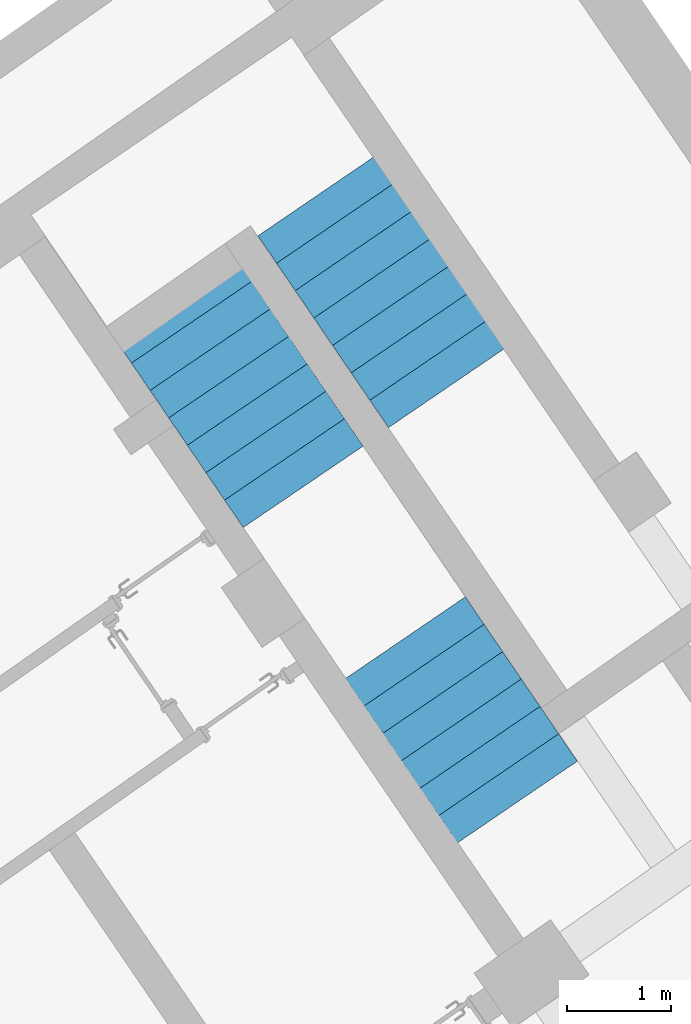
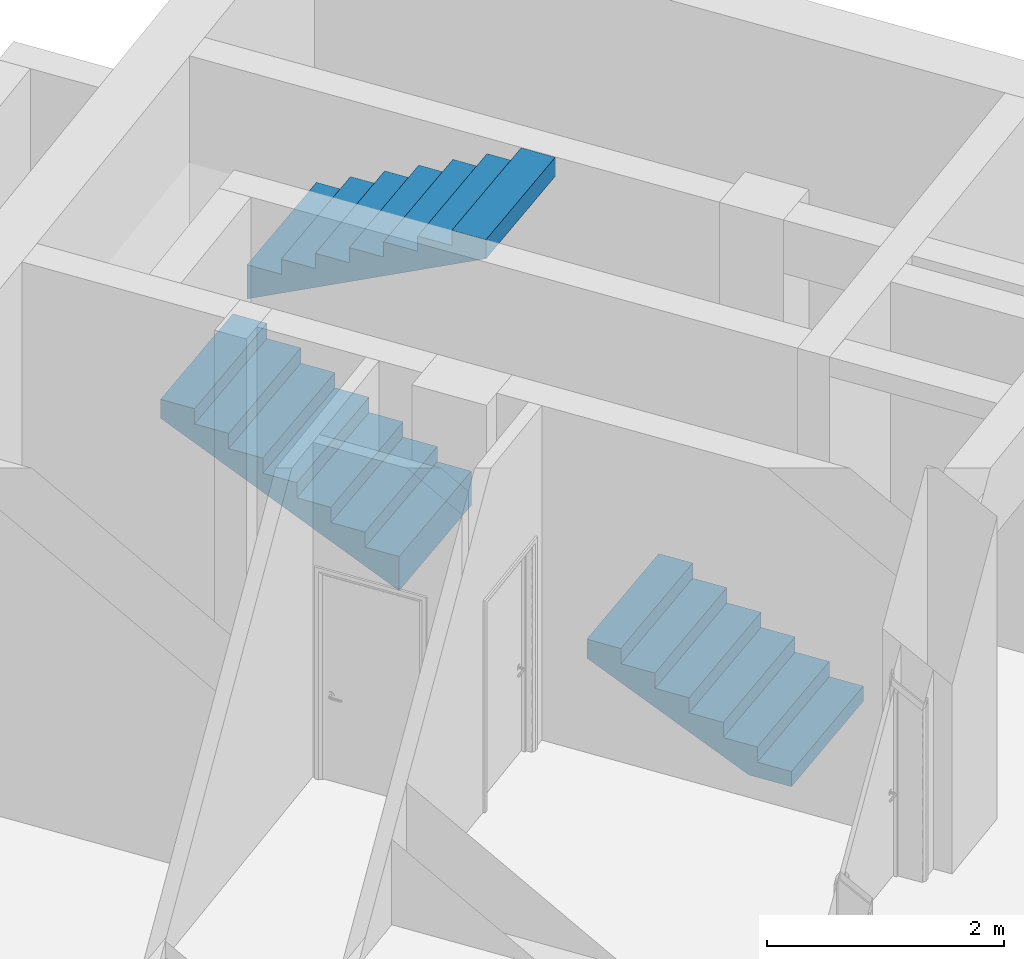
# One storey, part 110 of 112: 3 stair flights, 1 element without a shape of its own.
"""IFC2X3 building model written with IfcOpenShell, lengths in millimetres."""

import ifcopenshell
import ifcopenshell.guid

model = None  # the IFC model being written
_history = None  # IfcOwnerHistory: only IFC2X3 demands one
_inside = {}  # id of a spatial element -> (the spatial element, [elements in it])
_under = {}  # id of a project, library or spatial element -> (it, [spatial elements below it])
_declared = {}  # id of a project -> (the project, [libraries it declares])
_typed = {}  # id of a type object -> (the type object, [elements of that type])
_made_of = {}  # id of a material, layer set ... -> (it, [elements and type objects made of it])


def new_model(schema):
    """Start an empty IFC model of exactly this schema.

    Asked for "IFC4X3", IfcOpenShell would pick the latest addendum, in which some entities
    have other attributes; the version numbers below select the first issue.
    IFC2X3 requires an IfcOwnerHistory on every rooted entity: one is made here for all.
    """
    global model, _history
    if schema == "IFC4X3":
        model = ifcopenshell.file(schema_version=(4, 3, 0, 0))
    else:
        model = ifcopenshell.file(schema=schema)
    _inside.clear()
    _under.clear()
    _declared.clear()
    _typed.clear()
    _made_of.clear()
    _history = None
    if model.schema == "IFC2X3":
        org = make("IfcOrganization", Name="unknown")
        user = make(
            "IfcPersonAndOrganization",
            ThePerson=make("IfcPerson", FamilyName="unknown"),
            TheOrganization=org,
        )
        app = make(
            "IfcApplication",
            ApplicationDeveloper=org,
            Version="unknown",
            ApplicationFullName="unknown",
            ApplicationIdentifier="unknown",
        )
        _history = make(
            "IfcOwnerHistory",
            OwningUser=user,
            OwningApplication=app,
            ChangeAction="ADDED",
            CreationDate=0,
        )
    return model


def make(cls, **values):
    """One entity of the class cls with the attributes given. An attribute that is None is left unset."""
    return model.create_entity(
        cls, **{name: value for name, value in values.items() if value is not None}
    )


def entity(cls, *values):
    """Any entity or typed value of the class cls, its attributes in the order of the schema. None: left unset."""
    e = model.create_entity(cls)
    for i, value in enumerate(values):
        if value is not None:
            e[i] = value
    return e


def rooted(cls, **values):
    """An entity with a GlobalId (a new one), such as an element, a storey or a relation."""
    return make(cls, GlobalId=ifcopenshell.guid.new(), OwnerHistory=_history, **values)


def si_unit(unit_type, name, prefix=None):
    """IfcSIUnit, for example si_unit("LENGTHUNIT", "METRE", prefix="MILLI")."""
    return make("IfcSIUnit", UnitType=unit_type, Prefix=prefix, Name=name)


def converted_unit(unit_type, name, factor, base, dimensions=None, offset=None):
    """IfcConversionBasedUnit, such as the inch: factor (a typed value) times the base unit."""
    return make(
        "IfcConversionBasedUnit"
        if offset is None
        else "IfcConversionBasedUnitWithOffset",
        ConversionOffset=offset,
        Dimensions=None
        if dimensions is None
        else entity("IfcDimensionalExponents", *dimensions),
        UnitType=unit_type,
        Name=name,
        ConversionFactor=make(
            "IfcMeasureWithUnit", ValueComponent=factor, UnitComponent=base
        ),
    )


def derived_unit(unit_type, elements):
    """IfcDerivedUnit: a product of units, each with its exponent."""
    return make(
        "IfcDerivedUnit",
        Elements=[
            make("IfcDerivedUnitElement", Unit=unit, Exponent=power)
            for unit, power in elements
        ],
        UnitType=unit_type,
    )


def assignment(units):
    """IfcUnitAssignment: the units of a project."""
    return None if units is None else make("IfcUnitAssignment", Units=units)


def point(xyz):
    """IfcCartesianPoint."""
    return None if xyz is None else make("IfcCartesianPoint", Coordinates=xyz)


def direction(xyz):
    """IfcDirection."""
    return None if xyz is None else make("IfcDirection", DirectionRatios=xyz)


def frame(location, z_axis=None, x_axis=None):
    """IfcAxis2Placement3D, a coordinate frame: its origin and axes. An axis left out is left unset."""
    return make(
        "IfcAxis2Placement3D",
        Location=point(location),
        Axis=direction(z_axis),
        RefDirection=direction(x_axis),
    )


def origin():
    """The frame at (0, 0, 0) with its axes left unset."""
    return frame((0.0, 0.0, 0.0))


def place(relative_to, where):
    """IfcLocalPlacement: puts the frame where relative to a parent placement (None: the world)."""
    return make(
        "IfcLocalPlacement", PlacementRelTo=relative_to, RelativePlacement=where
    )


def context(
    kind, dimensions, precision=None, world=None, true_north=None, identifier=None
):
    """IfcGeometricRepresentationContext, for example the 3D "Model" context."""
    return make(
        "IfcGeometricRepresentationContext",
        ContextIdentifier=identifier,
        ContextType=kind,
        CoordinateSpaceDimension=dimensions,
        Precision=precision,
        WorldCoordinateSystem=world,
        TrueNorth=true_north,
    )


def subcontext(parent, identifier, kind, view, scale=None):
    """IfcGeometricRepresentationSubContext, for example "Body" below "Model"."""
    return make(
        "IfcGeometricRepresentationSubContext",
        ContextIdentifier=identifier,
        ContextType=kind,
        ParentContext=parent,
        TargetScale=scale,
        TargetView=view,
    )


def project(units=None, contexts=None):
    """IfcProject with its units and contexts."""
    return rooted(
        "IfcProject",
        Name="project",
        RepresentationContexts=contexts,
        UnitsInContext=assignment(units),
    )


def spatial(cls, under=None, at=None, **own):
    """A site, building, storey or space (cls), placed at a placement, below another one or the project."""
    s = rooted(cls, ObjectPlacement=at, **own)
    if under is not None:
        _under.setdefault(under.id(), (under, []))[1].append(s)
    return s


def faces_of(points, faces, orient=None, outer=None):
    """IfcFace entities. A face is a list of loops; a loop is a list of indices into points, from 0.

    orient and outer hold one flag for each loop. By default every Orientation is true, the
    first loop of a face is its IfcFaceOuterBound and the others are IfcFaceBound.
    """
    made = []
    for i, loops in enumerate(faces):
        bounds = []
        for j, loop in enumerate(loops):
            is_outer = j == 0 if outer is None else outer[i][j]
            bounds.append(
                make(
                    "IfcFaceOuterBound" if is_outer else "IfcFaceBound",
                    Bound=make("IfcPolyLoop", Polygon=[points[k] for k in loop]),
                    Orientation=True if orient is None else orient[i][j],
                )
            )
        made.append(make("IfcFace", Bounds=bounds))
    return made


def faceted_brep(points, faces, orient=None, outer=None, voids=None):
    """IfcFacetedBrep: a solid bounded by flat faces; with voids (closed shells), ...WithVoids."""
    shared = [point(p) for p in points]
    hull = make("IfcClosedShell", CfsFaces=faces_of(shared, faces, orient, outer))
    if voids is None:
        return make("IfcFacetedBrep", Outer=hull)
    return make(
        "IfcFacetedBrepWithVoids",
        Outer=hull,
        Voids=[
            make(cls, CfsFaces=faces_of(shared, fs, o, b)) for cls, fs, o, b in voids
        ],
    )


def shape(context_of_items, identifier, shape_type, items):
    """IfcShapeRepresentation: the items that make up one representation, for example the "Body"."""
    return make(
        "IfcShapeRepresentation",
        ContextOfItems=context_of_items,
        RepresentationIdentifier=identifier,
        RepresentationType=shape_type,
        Items=items,
    )


def material(Name=None, Category=None):
    """IfcMaterial."""
    return make("IfcMaterial", Name=Name, Category=Category)


def material_list(materials):
    """IfcMaterialList."""
    return make("IfcMaterialList", Materials=materials)


def made_of(thing, what):
    """Note that an element or type object is made of a material, layer set ...; save() writes the relation."""
    if what is not None:
        _made_of.setdefault(what.id(), (what, []))[1].append(thing)
    return thing


def type_object(cls, material=None, **own):
    """A type object (cls), such as IfcWallType, which elements share."""
    return made_of(rooted(cls, **own), material)


def element(
    cls,
    number,
    at=None,
    inside=None,
    cuts=None,
    type_object=None,
    material=None,
    context=None,
    identifier="Body",
    shape_type=None,
    held_by="IfcProductDefinitionShape",
    body=None,
    shapes=None,
    **own,
):
    """One element of the class cls, such as IfcWall. Its Tag is "e" and its number.

    at: its placement. inside: the storey or other place that contains it. cuts: it is an
    opening in that element (IfcRelVoidsElement). A single representation is given by context,
    identifier, shape_type and body (its items); several are given by shapes. held_by: the class
    of the entity that holds the representations. save() writes the other relations.
    """
    e = rooted(cls, Tag="e%d" % number, ObjectPlacement=at, **own)
    if body is not None:
        shapes = [shape(context, identifier, shape_type, body)]
    if shapes is not None:
        e.Representation = make(held_by, Representations=shapes)
    if inside is not None:
        _inside.setdefault(inside.id(), (inside, []))[1].append(e)
    if cuts is not None:
        rooted(
            "IfcRelVoidsElement", RelatingBuildingElement=cuts, RelatedOpeningElement=e
        )
    if type_object is not None:
        _typed.setdefault(type_object.id(), (type_object, []))[1].append(e)
    return made_of(e, material)


def aggregate(whole, parts):
    """IfcRelAggregates: a whole, such as a stair, and the parts it consists of."""
    return rooted("IfcRelAggregates", RelatingObject=whole, RelatedObjects=parts)


def save(model, path):
    """Write the relations noted so far, then the file.

    IfcRelAggregates (storeys below a building ...), IfcRelContainedInSpatialStructure (elements
    in a storey), IfcRelDefinesByType, IfcRelAssociatesMaterial and IfcRelDeclares: one each for
    every whole, place, type object, material and project.
    """
    for whole, parts in _under.values():
        aggregate(whole, parts)
    for where, things in _inside.values():
        rooted(
            "IfcRelContainedInSpatialStructure",
            RelatedElements=things,
            RelatingStructure=where,
        )
    for kind, things in _typed.values():
        rooted("IfcRelDefinesByType", RelatedObjects=things, RelatingType=kind)
    for what, things in _made_of.values():
        rooted("IfcRelAssociatesMaterial", RelatedObjects=things, RelatingMaterial=what)
    for by, libraries in _declared.values():
        rooted("IfcRelDeclares", RelatingContext=by, RelatedDefinitions=libraries)
    model.write(path)


model = new_model("IFC2X3")

# Units and contexts
model_context = context("Model", 3, precision=0.01, world=origin(), true_north=direction((6.123031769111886e-17, 1.0)))
body_context = subcontext(model_context, "Body", "Model", "MODEL_VIEW")
ifc_project = project(units=[si_unit("LENGTHUNIT", "METRE", prefix="MILLI"), si_unit("AREAUNIT", "SQUARE_METRE"), si_unit("VOLUMEUNIT", "CUBIC_METRE"), converted_unit("PLANEANGLEUNIT", "DEGREE", entity("IfcRatioMeasure", 0.017453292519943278), si_unit("PLANEANGLEUNIT", "RADIAN"), dimensions=[0, 0, 0, 0, 0, 0, 0]), si_unit("MASSUNIT", "GRAM", prefix="KILO"), derived_unit("MASSDENSITYUNIT", [(si_unit("MASSUNIT", "GRAM", prefix="KILO"), 1), (si_unit("LENGTHUNIT", "METRE"), -3)]), derived_unit("MOMENTOFINERTIAUNIT", [(si_unit("LENGTHUNIT", "METRE"), 4)]), si_unit("TIMEUNIT", "SECOND"), si_unit("FREQUENCYUNIT", "HERTZ"), si_unit("THERMODYNAMICTEMPERATUREUNIT", "DEGREE_CELSIUS"), derived_unit("THERMALTRANSMITTANCEUNIT", [(si_unit("MASSUNIT", "GRAM", prefix="KILO"), 1), (si_unit("THERMODYNAMICTEMPERATUREUNIT", "KELVIN"), -1), (si_unit("TIMEUNIT", "SECOND"), -3)]), derived_unit("THERMALCONDUCTANCEUNIT", [(si_unit("MASSUNIT", "GRAM", prefix="KILO"), 1), (si_unit("LENGTHUNIT", "METRE"), 1), (si_unit("THERMODYNAMICTEMPERATUREUNIT", "KELVIN"), -1), (si_unit("TIMEUNIT", "SECOND"), -3)]), derived_unit("VOLUMETRICFLOWRATEUNIT", [(si_unit("LENGTHUNIT", "METRE"), 3), (si_unit("TIMEUNIT", "SECOND"), -1)]), derived_unit("MASSFLOWRATEUNIT", [(si_unit("MASSUNIT", "GRAM", prefix="KILO"), 1), (si_unit("TIMEUNIT", "SECOND"), -1)]), derived_unit("ROTATIONALFREQUENCYUNIT", [(si_unit("TIMEUNIT", "SECOND"), -1)]), si_unit("ELECTRICCURRENTUNIT", "AMPERE"), si_unit("ELECTRICVOLTAGEUNIT", "VOLT"), si_unit("POWERUNIT", "WATT"), converted_unit("FORCEUNIT", "KIP", entity("IfcRatioMeasure", 2.088543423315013e-05), si_unit("FORCEUNIT", "NEWTON"), dimensions=[1, 1, -2, 0, 0, 0, 0]), si_unit("ILLUMINANCEUNIT", "LUX"), si_unit("LUMINOUSFLUXUNIT", "LUMEN"), si_unit("LUMINOUSINTENSITYUNIT", "CANDELA"), derived_unit("USERDEFINED", [(si_unit("MASSUNIT", "GRAM", prefix="KILO"), -1), (si_unit("LENGTHUNIT", "METRE"), -2), (si_unit("TIMEUNIT", "SECOND"), 3), (si_unit("LUMINOUSFLUXUNIT", "LUMEN"), 1)]), derived_unit("USERDEFINED", [(si_unit("MASSUNIT", "GRAM", prefix="KILO"), 1), (si_unit("LENGTHUNIT", "METRE"), 3), (si_unit("TIMEUNIT", "SECOND"), -3), (si_unit("ELECTRICCURRENTUNIT", "AMPERE"), -2)]), derived_unit("USERDEFINED", [(si_unit("LENGTHUNIT", "METRE"), 2), (si_unit("TIMEUNIT", "SECOND"), -2)]), derived_unit("SOUNDPOWERUNIT", [(si_unit("MASSUNIT", "GRAM", prefix="KILO"), 1), (si_unit("LENGTHUNIT", "METRE"), 2), (si_unit("TIMEUNIT", "SECOND"), -3)]), derived_unit("SOUNDPRESSUREUNIT", [(si_unit("MASSUNIT", "GRAM", prefix="KILO"), 1), (si_unit("LENGTHUNIT", "METRE"), -1), (si_unit("TIMEUNIT", "SECOND"), -2)]), derived_unit("LINEARVELOCITYUNIT", [(si_unit("LENGTHUNIT", "METRE"), 1), (si_unit("TIMEUNIT", "SECOND"), -1)]), si_unit("PRESSUREUNIT", "PASCAL"), derived_unit("USERDEFINED", [(si_unit("LENGTHUNIT", "METRE"), -2), (si_unit("MASSUNIT", "GRAM", prefix="KILO"), 1), (si_unit("TIMEUNIT", "SECOND"), -2)]), derived_unit("LINEARFORCEUNIT", [(si_unit("MASSUNIT", "GRAM", prefix="KILO"), 1), (si_unit("LENGTHUNIT", "METRE"), 1), (si_unit("TIMEUNIT", "SECOND"), -2), (si_unit("LENGTHUNIT", "METRE"), -1)]), derived_unit("PLANARFORCEUNIT", [(si_unit("MASSUNIT", "GRAM", prefix="KILO"), 1), (si_unit("LENGTHUNIT", "METRE"), 1), (si_unit("TIMEUNIT", "SECOND"), -2), (si_unit("LENGTHUNIT", "METRE"), -2)]), derived_unit("SPECIFICHEATCAPACITYUNIT", [(si_unit("LENGTHUNIT", "METRE"), 2), (si_unit("TIMEUNIT", "SECOND"), -2), (si_unit("THERMODYNAMICTEMPERATUREUNIT", "KELVIN"), -1)]), derived_unit("VAPORPERMEABILITYUNIT", [(si_unit("TIMEUNIT", "SECOND"), 1), (si_unit("LENGTHUNIT", "METRE"), -1)]), derived_unit("DYNAMICVISCOSITYUNIT", [(si_unit("MASSUNIT", "GRAM", prefix="KILO"), 1), (si_unit("LENGTHUNIT", "METRE"), -1), (si_unit("TIMEUNIT", "SECOND"), -1)]), derived_unit("THERMALEXPANSIONCOEFFICIENTUNIT", [(si_unit("THERMODYNAMICTEMPERATUREUNIT", "KELVIN"), -1)])], contexts=[model_context])

# Site, building, storey
site_placement = place(None, frame((0.0, 0.0, 0.0), z_axis=(0.0, 0.0, 1.0), x_axis=(0.8191520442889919, 0.5735764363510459, 0.0)))
site = spatial("IfcSite", under=ifc_project, at=site_placement, Name="Default", CompositionType="ELEMENT")
building_placement = place(site_placement, origin())
building = spatial("IfcBuilding", under=site, at=building_placement, CompositionType="ELEMENT")
storey_placement = place(building_placement, frame((0.0, 0.0, -3600.0)))
storey = spatial("IfcBuildingStorey", under=building, at=storey_placement, Name="0.UG -3.60", CompositionType="ELEMENT", Elevation=-3600.0000000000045)

# Stair, stair flights
stair_placement = place(storey_placement, origin())
stair = element("IfcStair", 1, at=stair_placement, inside=storey, Name="Precast Stair:Stair", ObjectType="Precast Stair:Stair_CJC_KH", ShapeType="NOTDEFINED")
ifc_material_1 = material(Name="Concrete, Cast-in-Place gray")
ifc_material_2 = material(Name="Analytical Wall Surface_CJC")
ifc_material_list = material_list([ifc_material_1, ifc_material_2])
stair_flight_type = type_object("IfcStairFlightType", Name="Monolithic Run:1mm_Tread-175mm_Depth", PredefinedType="STRAIGHT")
stair_flight_1_placement = place(stair_placement, frame((-210167.5827076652, 165425.78954697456, 0.0)))
stair_flight_1 = element("IfcStairFlight", 2, at=stair_flight_1_placement, type_object=stair_flight_type, material=ifc_material_list, Name="Precast Stair:Stair:623208 Run 1", ObjectType="Monolithic Run:1mm_Tread-175mm_Depth", NumberOfRiser=7, NumberOfTreads=6, RiserHeight=0.5135227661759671, TreadLength=1.0498687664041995, context=body_context, shape_type="Brep", body=[
    faceted_brep([(4.073468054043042, 337.7954949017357, 156.52173913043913), (0.0, 17.82142273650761, 156.52173913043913), (1399.8865657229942, 0.0, 156.52173913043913), (1403.960033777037, 319.974072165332, 156.52173913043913), (4.073468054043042, 337.7954949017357, 155.52173913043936), (1403.960033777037, 319.974072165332, 155.52173913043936), (1399.8865657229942, 0.0, 155.52173913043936), (0.0, 17.82142273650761, 155.52173913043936)], [[[0, 1, 2, 3]], [[4, 5, 6, 7]], [[1, 0, 4, 7]], [[2, 1, 7, 6]], [[3, 2, 6, 5]], [[0, 3, 5, 4]]]),
    faceted_brep([(8.146936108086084, 657.7695670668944, 313.04347826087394), (4.073468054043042, 337.7954949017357, 313.04347826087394), (1403.960033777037, 319.974072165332, 313.04347826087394), (1408.0335018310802, 639.9481443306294, 313.04347826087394), (8.146936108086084, 657.7695670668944, 312.04347826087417), (1408.0335018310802, 639.9481443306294, 312.04347826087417), (1403.960033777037, 319.974072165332, 312.04347826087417), (4.073468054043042, 337.7954949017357, 312.04347826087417)], [[[0, 1, 2, 3]], [[4, 5, 6, 7]], [[1, 0, 4, 7]], [[2, 1, 7, 6]], [[3, 2, 6, 5]], [[0, 3, 5, 4]]]),
    faceted_brep([(12.220404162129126, 977.7436392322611, 469.5652173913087), (8.146936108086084, 657.7695670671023, 469.5652173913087), (1408.0335018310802, 639.9481443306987, 469.5652173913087), (1412.1069698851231, 959.922216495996, 469.5652173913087), (12.220404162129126, 977.7436392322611, 468.5652173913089), (1412.1069698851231, 959.922216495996, 468.5652173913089), (1408.0335018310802, 639.9481443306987, 468.5652173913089), (8.146936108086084, 657.7695670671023, 468.5652173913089)], [[[0, 1, 2, 3]], [[4, 5, 6, 7]], [[1, 0, 4, 7]], [[2, 1, 7, 6]], [[3, 2, 6, 5]], [[0, 3, 5, 4]]]),
    faceted_brep([(16.29387221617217, 1297.7177113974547, 626.0869565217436), (12.220404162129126, 977.7436392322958, 626.0869565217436), (1412.1069698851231, 959.9222164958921, 626.0869565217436), (1416.1804379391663, 1279.8962886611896, 626.0869565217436), (16.29387221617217, 1297.7177113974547, 625.0869565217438), (1416.1804379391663, 1279.8962886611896, 625.0869565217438), (1412.1069698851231, 959.9222164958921, 625.0869565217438), (12.220404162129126, 977.7436392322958, 625.0869565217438)], [[[0, 1, 2, 3]], [[4, 5, 6, 7]], [[1, 0, 4, 7]], [[2, 1, 7, 6]], [[3, 2, 6, 5]], [[0, 3, 5, 4]]]),
    faceted_brep([(20.36734027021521, 1617.6917835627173, 782.6086956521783), (16.29387221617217, 1297.7177113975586, 782.6086956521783), (1416.1804379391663, 1279.8962886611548, 782.6086956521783), (1420.2539059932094, 1599.8703608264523, 782.6086956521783), (20.36734027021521, 1617.6917835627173, 781.6086956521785), (1420.2539059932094, 1599.8703608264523, 781.6086956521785), (1416.1804379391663, 1279.8962886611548, 781.6086956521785), (16.29387221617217, 1297.7177113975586, 781.6086956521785)], [[[0, 1, 2, 3]], [[4, 5, 6, 7]], [[1, 0, 4, 7]], [[2, 1, 7, 6]], [[3, 2, 6, 5]], [[0, 3, 5, 4]]]),
    faceted_brep([(24.440808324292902, 1937.66585572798, 939.1304347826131), (20.367340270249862, 1617.6917835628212, 939.1304347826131), (1420.253905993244, 1599.8703608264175, 939.1304347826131), (1424.327374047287, 1919.844432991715, 939.1304347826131), (24.440808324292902, 1937.66585572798, 938.1304347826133), (1424.327374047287, 1919.844432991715, 938.1304347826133), (1420.253905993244, 1599.8703608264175, 938.1304347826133), (20.367340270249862, 1617.6917835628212, 938.1304347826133)], [[[0, 1, 2, 3]], [[4, 5, 6, 7]], [[1, 0, 4, 7]], [[2, 1, 7, 6]], [[3, 2, 6, 5]], [[0, 3, 5, 4]]]),
    faceted_brep([(4.073468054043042, 337.7954949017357, 155.52173913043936), (0.0, 17.82142273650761, 155.52173913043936), (1399.8865657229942, 0.0, 155.52173913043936), (1403.960033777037, 319.97407216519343, 155.52173913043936), (4.073468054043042, 337.7954949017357, 0.0), (0.0, 17.82142273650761, 0.0), (1399.8865657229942, 0.0, 0.0), (1403.960033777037, 319.974072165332, 0.0), (8.146936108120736, 657.7695670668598, 312.04347826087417), (4.0734680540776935, 337.79549490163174, 312.04347826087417), (1403.9600337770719, 319.97407216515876, 312.04347826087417), (1408.0335018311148, 639.9481443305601, 312.04347826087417), (8.146936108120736, 657.7695670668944, 117.23077890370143), (5.096012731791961, 418.11717170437, 0.0), (1404.982578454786, 400.2957489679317, 0.0), (1408.0335018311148, 639.9481443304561, 117.2307789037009), (12.220404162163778, 977.7436392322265, 468.5652173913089), (8.146936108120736, 657.7695670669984, 468.5652173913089), (1408.0335018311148, 639.9481443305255, 468.5652173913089), (1412.106969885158, 959.9222164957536, 468.5652173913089), (12.220404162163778, 977.7436392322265, 273.75251803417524), (1412.106969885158, 959.9222164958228, 273.7525180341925), (16.293872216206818, 1297.7177113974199, 625.0869565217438), (12.220404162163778, 977.7436392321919, 625.0869565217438), (1412.106969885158, 959.9222164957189, 625.0869565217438), (1416.1804379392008, 1279.8962886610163, 625.0869565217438), (16.293872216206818, 1297.7177113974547, 430.27425716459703), (1416.1804379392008, 1279.8962886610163, 430.2742571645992), (20.367340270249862, 1617.6917835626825, 781.6086956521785), (16.293872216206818, 1297.7177113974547, 781.6086956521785), (1416.1804379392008, 1279.8962886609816, 781.6086956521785), (1420.253905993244, 1599.870360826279, 781.6086956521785), (20.367340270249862, 1617.6917835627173, 586.7959962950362), (1420.253905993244, 1599.870360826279, 586.7959962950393), (24.440808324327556, 1937.6658557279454, 938.1304347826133), (20.36734027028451, 1617.6917835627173, 938.1304347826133), (1420.2539059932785, 1599.8703608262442, 938.1304347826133), (1424.3273740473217, 1919.8444329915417, 938.1304347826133), (24.440808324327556, 1937.6658557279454, 743.3177354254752), (1424.3273740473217, 1919.8444329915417, 743.3177354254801)], [[[0, 1, 2, 3]], [[1, 0, 4, 5]], [[2, 1, 5, 6]], [[3, 2, 6, 7]], [[8, 9, 10, 11]], [[4, 0, 9, 8, 12, 13]], [[0, 3, 10, 9]], [[3, 7, 14, 15, 11, 10]], [[16, 17, 18, 19]], [[17, 16, 20, 12, 8]], [[8, 11, 18, 17]], [[19, 18, 11, 15, 21]], [[22, 23, 24, 25]], [[23, 22, 26, 20, 16]], [[16, 19, 24, 23]], [[25, 24, 19, 21, 27]], [[28, 29, 30, 31]], [[29, 28, 32, 26, 22]], [[22, 25, 30, 29]], [[31, 30, 25, 27, 33]], [[34, 35, 36, 37]], [[35, 34, 38, 32, 28]], [[28, 31, 36, 35]], [[37, 36, 31, 33, 39]], [[34, 37, 39, 38]], [[5, 4, 13, 14, 7, 6]], [[14, 13, 12, 20, 26, 32, 38, 39, 33, 27, 21, 15]]]),
])
stair_flight_2_placement = place(stair_placement, frame((-210116.51521748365, 169104.1233543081, 0.0)))
stair_flight_2 = element("IfcStairFlight", 3, at=stair_flight_2_placement, type_object=stair_flight_type, material=ifc_material_list, Name="Precast Stair:Stair:623208 Run 2", ObjectType="Monolithic Run:1mm_Tread-175mm_Depth", NumberOfRiser=8, NumberOfTreads=7, RiserHeight=0.5135227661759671, TreadLength=1.0498687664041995, context=body_context, shape_type="Brep", body=[
    faceted_brep([(4.674122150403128, 340.4151459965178, 1252.1739130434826), (0.0, 20.449284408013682, 1252.1739130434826), (1399.8506444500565, 0.0, 1252.1739130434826), (1404.5247666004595, 319.9658615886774, 1252.1739130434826), (4.674122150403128, 340.4151459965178, 1251.1739130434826), (1404.5247666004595, 319.9658615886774, 1251.1739130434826), (1399.8506444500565, 0.0, 1251.1739130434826), (0.0, 20.449284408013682, 1251.1739130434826)], [[[0, 1, 2, 3]], [[4, 5, 6, 7]], [[1, 0, 4, 7]], [[2, 1, 7, 6]], [[3, 2, 6, 5]], [[0, 3, 5, 4]]]),
    faceted_brep([(9.348244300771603, 660.3810075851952, 1408.6956521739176), (4.674122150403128, 340.4151459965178, 1408.6956521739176), (1404.5247666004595, 319.9658615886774, 1408.6956521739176), (1409.198888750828, 639.9317231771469, 1408.6956521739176), (9.348244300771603, 660.3810075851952, 1407.6956521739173), (1409.198888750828, 639.9317231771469, 1407.6956521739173), (1404.5247666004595, 319.9658615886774, 1407.6956521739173), (4.674122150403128, 340.4151459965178, 1407.6956521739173)], [[[0, 1, 2, 3]], [[4, 5, 6, 7]], [[1, 0, 4, 7]], [[2, 1, 7, 6]], [[3, 2, 6, 5]], [[0, 3, 5, 4]]]),
    faceted_brep([(14.022366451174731, 980.3468691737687, 1565.2173913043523), (9.348244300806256, 660.3810075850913, 1565.2173913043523), (1409.1988887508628, 639.9317231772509, 1565.2173913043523), (1413.8730109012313, 959.8975847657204, 1565.2173913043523), (14.022366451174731, 980.3468691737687, 1564.2173913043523), (1413.8730109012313, 959.8975847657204, 1564.2173913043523), (1409.1988887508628, 639.9317231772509, 1564.2173913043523), (9.348244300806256, 660.3810075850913, 1564.2173913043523)], [[[0, 1, 2, 3]], [[4, 5, 6, 7]], [[1, 0, 4, 7]], [[2, 1, 7, 6]], [[3, 2, 6, 5]], [[0, 3, 5, 4]]]),
    faceted_brep([(18.696488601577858, 1300.3127307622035, 1721.739130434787), (14.022366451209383, 980.3468691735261, 1721.739130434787), (1413.8730109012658, 959.8975847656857, 1721.739130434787), (1418.5471330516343, 1279.8634463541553, 1721.739130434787), (18.696488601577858, 1300.3127307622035, 1720.739130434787), (1418.5471330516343, 1279.8634463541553, 1720.739130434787), (1413.8730109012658, 959.8975847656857, 1720.739130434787), (14.022366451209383, 980.3468691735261, 1720.739130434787)], [[[0, 1, 2, 3]], [[4, 5, 6, 7]], [[1, 0, 4, 7]], [[2, 1, 7, 6]], [[3, 2, 6, 5]], [[0, 3, 5, 4]]]),
    faceted_brep([(23.370610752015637, 1620.2785923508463, 1878.2608695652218), (18.69648860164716, 1300.312730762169, 1878.2608695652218), (1418.5471330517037, 1279.8634463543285, 1878.2608695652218), (1423.2212552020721, 1599.8293079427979, 1878.2608695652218), (23.370610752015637, 1620.2785923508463, 1877.2608695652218), (1423.2212552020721, 1599.8293079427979, 1877.2608695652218), (1418.5471330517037, 1279.8634463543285, 1877.2608695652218), (18.69648860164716, 1300.312730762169, 1877.2608695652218)], [[[0, 1, 2, 3]], [[4, 5, 6, 7]], [[1, 0, 4, 7]], [[2, 1, 7, 6]], [[3, 2, 6, 5]], [[0, 3, 5, 4]]]),
    faceted_brep([(28.044732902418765, 1940.2444539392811, 2034.7826086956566), (23.37061075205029, 1620.2785923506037, 2034.7826086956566), (1423.2212552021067, 1599.8293079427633, 2034.7826086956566), (1427.8953773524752, 1919.795169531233, 2034.7826086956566), (28.044732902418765, 1940.2444539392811, 2033.7826086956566), (1427.8953773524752, 1919.795169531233, 2033.7826086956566), (1423.2212552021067, 1599.8293079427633, 2033.7826086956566), (23.37061075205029, 1620.2785923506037, 2033.7826086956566)], [[[0, 1, 2, 3]], [[4, 5, 6, 7]], [[1, 0, 4, 7]], [[2, 1, 7, 6]], [[3, 2, 6, 5]], [[0, 3, 5, 4]]]),
    faceted_brep([(32.71885505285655, 2260.2103155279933, 2191.3043478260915), (28.044732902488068, 1940.244453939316, 2191.3043478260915), (1427.8953773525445, 1919.7951695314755, 2191.3043478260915), (1432.569499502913, 2239.761031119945, 2191.3043478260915), (32.71885505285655, 2260.2103155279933, 2190.3043478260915), (1432.569499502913, 2239.761031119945, 2190.3043478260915), (1427.8953773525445, 1919.7951695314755, 2190.3043478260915), (28.044732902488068, 1940.244453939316, 2190.3043478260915)], [[[0, 1, 2, 3]], [[4, 5, 6, 7]], [[1, 0, 4, 7]], [[2, 1, 7, 6]], [[3, 2, 6, 5]], [[0, 3, 5, 4]]]),
    faceted_brep([(4.674122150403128, 340.4151459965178, 1251.1739130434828), (0.0, 20.449284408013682, 1251.1739130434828), (1399.8506444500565, 0.0, 1251.1739130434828), (1404.5247666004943, 319.9658615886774, 1251.1739130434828), (4.674122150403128, 340.4151459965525, 1056.3612136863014), (0.0, 20.449284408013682, 899.8394745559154), (1399.8506444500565, 0.0, 899.8394745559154), (1404.5247666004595, 319.9658615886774, 1056.3612136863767), (9.348244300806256, 660.3810075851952, 1407.6956521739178), (4.674122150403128, 340.4151459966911, 1407.6956521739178), (1404.5247666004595, 319.9658615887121, 1407.6956521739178), (1409.1988887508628, 639.9317231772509, 1407.6956521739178), (9.348244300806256, 660.3810075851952, 1212.8829528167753), (1409.1988887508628, 639.9317231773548, 1212.8829528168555), (14.022366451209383, 980.3468691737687, 1564.2173913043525), (9.348244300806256, 660.3810075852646, 1564.2173913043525), (1409.1988887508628, 639.9317231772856, 1564.2173913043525), (1413.8730109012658, 959.8975847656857, 1564.2173913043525), (14.022366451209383, 980.3468691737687, 1369.4046919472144), (1413.8730109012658, 959.8975847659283, 1369.404691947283), (18.69648860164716, 1300.3127307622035, 1525.9264310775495), (23.37061075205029, 1620.2785923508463, 1682.4481702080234), (28.044732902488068, 1940.2444539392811, 1838.9699093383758), (32.71885505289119, 2260.210315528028, 1995.4916484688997), (1432.5694995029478, 2239.761031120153, 1995.4916484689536), (1427.89537735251, 1919.7951695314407, 1838.9699093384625), (1423.2212552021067, 1599.829307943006, 1682.4481702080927), (1418.547133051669, 1279.8634463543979, 1525.9264310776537), (18.69648860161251, 1300.3127307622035, 1720.7391304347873), (14.022366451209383, 980.3468691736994, 1720.7391304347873), (1413.8730109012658, 959.8975847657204, 1720.7391304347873), (1418.5471330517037, 1279.8634463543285, 1720.7391304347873), (23.37061075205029, 1620.2785923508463, 1877.260869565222), (18.69648860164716, 1300.3127307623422, 1877.260869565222), (1418.5471330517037, 1279.863446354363, 1877.260869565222), (1423.2212552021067, 1599.8293079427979, 1877.260869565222), (28.044732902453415, 1940.2444539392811, 2033.7826086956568), (23.37061075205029, 1620.278592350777, 2033.7826086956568), (1423.2212552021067, 1599.8293079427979, 2033.7826086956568), (1427.8953773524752, 1919.7951695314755, 2033.7826086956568), (32.71885505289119, 2260.2103155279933, 2190.3043478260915), (28.044732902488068, 1940.2444539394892, 2190.3043478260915), (1427.8953773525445, 1919.79516953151, 2190.3043478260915), (1432.5694995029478, 2239.761031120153, 2190.3043478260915)], [[[0, 1, 2, 3]], [[1, 0, 4, 5]], [[2, 1, 5, 6]], [[3, 2, 6, 7]], [[8, 9, 10, 11]], [[9, 8, 12, 4, 0]], [[10, 9, 0, 3]], [[11, 10, 3, 7, 13]], [[14, 15, 16, 17]], [[15, 14, 18, 12, 8]], [[16, 15, 8, 11]], [[17, 16, 11, 13, 19]], [[5, 4, 12, 18, 20, 21, 22, 23, 24, 25, 26, 27, 19, 13, 7, 6]], [[28, 29, 30, 31]], [[29, 28, 20, 18, 14]], [[30, 29, 14, 17]], [[31, 30, 17, 19, 27]], [[32, 33, 34, 35]], [[33, 32, 21, 20, 28]], [[34, 33, 28, 31]], [[35, 34, 31, 27, 26]], [[36, 37, 38, 39]], [[37, 36, 22, 21, 32]], [[38, 37, 32, 35]], [[39, 38, 35, 26, 25]], [[40, 41, 42, 43]], [[41, 40, 23, 22, 36]], [[42, 41, 36, 39]], [[43, 42, 39, 25, 24]], [[40, 43, 24, 23]]]),
])
stair_flight_3_placement = place(stair_placement, frame((-208412.95994864, 169092.79533154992, 0.0)))
stair_flight_3 = element("IfcStairFlight", 4, at=stair_flight_3_placement, type_object=stair_flight_type, material=ifc_material_list, Name="Precast Stair:Stair:623208 Run 3", ObjectType="Monolithic Run:1mm_Tread-175mm_Depth", NumberOfRiser=8, NumberOfTreads=7, RiserHeight=0.5135227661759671, TreadLength=1.0498687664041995, context=body_context, shape_type="Brep", body=[
    faceted_brep([(1374.3314252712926, 1919.8444329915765, 2504.347826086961), (1378.4048933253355, 2239.818505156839, 2504.347826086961), (28.514276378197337, 2257.0034485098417, 2504.347826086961), (24.440808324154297, 1937.029376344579, 2504.347826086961), (1374.3314252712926, 1919.8444329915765, 2503.347826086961), (24.440808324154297, 1937.029376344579, 2503.347826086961), (28.514276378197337, 2257.0034485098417, 2503.347826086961), (1378.4048933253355, 2239.818505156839, 2503.347826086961)], [[[0, 1, 2, 3]], [[4, 5, 6, 7]], [[1, 0, 4, 7]], [[2, 1, 7, 6]], [[3, 2, 6, 5]], [[0, 3, 5, 4]]]),
    faceted_brep([(1370.2579572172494, 1599.8703608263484, 2660.869565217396), (1374.3314252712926, 1919.8444329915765, 2660.869565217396), (24.440808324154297, 1937.029376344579, 2660.869565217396), (20.367340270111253, 1617.055304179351, 2660.869565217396), (1370.2579572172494, 1599.8703608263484, 2659.869565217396), (20.367340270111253, 1617.055304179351, 2659.869565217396), (24.440808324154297, 1937.029376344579, 2659.869565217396), (1374.3314252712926, 1919.8444329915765, 2659.869565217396)], [[[0, 1, 2, 3]], [[4, 5, 6, 7]], [[1, 0, 4, 7]], [[2, 1, 7, 6]], [[3, 2, 6, 5]], [[0, 3, 5, 4]]]),
    faceted_brep([(1366.184489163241, 1279.896288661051, 2817.3913043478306), (1370.2579572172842, 1599.870360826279, 2817.3913043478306), (20.367340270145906, 1617.0553041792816, 2817.3913043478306), (16.293872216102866, 1297.0812320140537, 2817.3913043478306), (1366.184489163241, 1279.896288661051, 2816.391304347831), (16.293872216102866, 1297.0812320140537, 2816.391304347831), (20.367340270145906, 1617.0553041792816, 2816.391304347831), (1370.2579572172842, 1599.870360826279, 2816.391304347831)], [[[0, 1, 2, 3]], [[4, 5, 6, 7]], [[1, 0, 4, 7]], [[2, 1, 7, 6]], [[3, 2, 6, 5]], [[0, 3, 5, 4]]]),
    faceted_brep([(1362.1110211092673, 959.9222164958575, 2973.9130434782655), (1366.1844891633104, 1279.8962886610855, 2973.9130434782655), (16.29387221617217, 1297.0812320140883, 2973.9130434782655), (12.220404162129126, 977.1071598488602, 2973.9130434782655), (1362.1110211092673, 959.9222164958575, 2972.9130434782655), (12.220404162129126, 977.1071598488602, 2972.9130434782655), (16.29387221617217, 1297.0812320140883, 2972.9130434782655), (1366.1844891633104, 1279.8962886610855, 2972.9130434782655)], [[[0, 1, 2, 3]], [[4, 5, 6, 7]], [[1, 0, 4, 7]], [[2, 1, 7, 6]], [[3, 2, 6, 5]], [[0, 3, 5, 4]]]),
    faceted_brep([(1358.0375530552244, 639.9481443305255, 3130.4347826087), (1362.1110211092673, 959.9222164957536, 3130.4347826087), (12.220404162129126, 977.1071598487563, 3130.4347826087), (8.146936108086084, 657.1330876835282, 3130.4347826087), (1358.0375530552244, 639.9481443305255, 3129.4347826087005), (8.146936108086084, 657.1330876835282, 3129.4347826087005), (12.220404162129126, 977.1071598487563, 3129.4347826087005), (1362.1110211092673, 959.9222164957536, 3129.4347826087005)], [[[0, 1, 2, 3]], [[4, 5, 6, 7]], [[1, 0, 4, 7]], [[2, 1, 7, 6]], [[3, 2, 6, 5]], [[0, 3, 5, 4]]]),
    faceted_brep([(1353.9640850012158, 319.97407216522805, 3286.956521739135), (1358.037553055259, 639.9481443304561, 3286.956521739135), (8.146936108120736, 657.1330876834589, 3286.956521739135), (4.0734680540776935, 337.15901551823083, 3286.956521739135), (1353.9640850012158, 319.97407216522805, 3285.956521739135), (4.0734680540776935, 337.15901551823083, 3285.956521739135), (8.146936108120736, 657.1330876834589, 3285.956521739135), (1358.037553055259, 639.9481443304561, 3285.956521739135)], [[[0, 1, 2, 3]], [[4, 5, 6, 7]], [[1, 0, 4, 7]], [[2, 1, 7, 6]], [[3, 2, 6, 5]], [[0, 3, 5, 4]]]),
    faceted_brep([(1349.890616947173, 0.0, 3443.4782608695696), (1353.9640850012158, 319.97407216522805, 3443.4782608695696), (4.0734680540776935, 337.15901551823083, 3443.4782608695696), (0.0, 17.184943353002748, 3443.4782608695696), (1349.890616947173, 0.0, 3442.47826086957), (0.0, 17.184943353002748, 3442.47826086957), (4.0734680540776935, 337.15901551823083, 3442.47826086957), (1353.9640850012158, 319.97407216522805, 3442.47826086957)], [[[0, 1, 2, 3]], [[4, 5, 6, 7]], [[1, 0, 4, 7]], [[2, 1, 7, 6]], [[3, 2, 6, 5]], [[0, 3, 5, 4]]]),
    faceted_brep([(1374.3314252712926, 1919.8444329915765, 2503.347826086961), (1378.4048933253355, 2239.818505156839, 2503.347826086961), (28.514276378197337, 2257.0034485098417, 2503.347826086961), (24.440808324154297, 1937.0293763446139, 2503.347826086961), (1374.3314252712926, 1919.844432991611, 2308.535126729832), (1378.4048933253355, 2239.818505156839, 2152.0133875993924), (28.514276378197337, 2257.0034485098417, 2152.0133875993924), (24.440808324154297, 1937.029376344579, 2308.5351267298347), (1370.2579572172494, 1599.8703608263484, 2659.869565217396), (1374.3314252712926, 1919.844432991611, 2659.869565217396), (24.440808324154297, 1937.0293763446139, 2659.869565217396), (20.367340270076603, 1617.0553041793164, 2659.869565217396), (1370.2579572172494, 1599.870360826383, 2465.0568658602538), (20.367340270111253, 1617.055304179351, 2465.0568658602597), (1366.184489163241, 1279.896288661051, 2816.391304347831), (1370.2579572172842, 1599.8703608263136, 2816.391304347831), (20.367340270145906, 1617.0553041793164, 2816.391304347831), (16.293872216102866, 1297.0812320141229, 2816.391304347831), (1366.184489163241, 1279.8962886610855, 2621.57860499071), (16.293872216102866, 1297.0812320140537, 2621.5786049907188), (1362.1110211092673, 959.9222164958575, 2972.9130434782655), (1366.1844891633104, 1279.8962886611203, 2972.9130434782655), (16.29387221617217, 1297.0812320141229, 2972.9130434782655), (12.220404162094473, 977.107159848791, 2972.9130434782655), (1362.1110211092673, 959.9222164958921, 2778.1003441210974), (12.220404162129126, 977.1071598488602, 2778.1003441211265), (1358.0375530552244, 639.9481443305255, 3129.4347826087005), (1362.1110211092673, 959.9222164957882, 3129.4347826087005), (12.220404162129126, 977.107159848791, 3129.4347826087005), (8.146936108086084, 657.1330876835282, 3129.4347826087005), (1358.0375530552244, 639.9481443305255, 2934.6220832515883), (8.146936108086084, 657.1330876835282, 2934.6220832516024), (1353.9640850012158, 319.97407216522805, 3285.956521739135), (1358.037553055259, 639.9481443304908, 3285.956521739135), (8.146936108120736, 657.1330876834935, 3285.956521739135), (4.0734680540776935, 337.15901551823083, 3285.956521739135), (1353.9640850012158, 319.9740721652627, 3091.1438223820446), (4.0734680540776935, 337.15901551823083, 3091.143822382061), (1349.890616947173, 0.0, 3442.47826086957), (1353.9640850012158, 319.9740721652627, 3442.47826086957), (4.0734680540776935, 337.15901551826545, 3442.47826086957), (0.0, 17.184943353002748, 3442.47826086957), (1349.890616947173, 0.0, 3247.6655615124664), (0.0, 17.184943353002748, 3247.6655615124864)], [[[0, 1, 2, 3]], [[1, 0, 4, 5]], [[2, 1, 5, 6]], [[3, 2, 6, 7]], [[8, 9, 10, 11]], [[9, 8, 12, 4, 0]], [[10, 9, 0, 3]], [[11, 10, 3, 7, 13]], [[14, 15, 16, 17]], [[15, 14, 18, 12, 8]], [[16, 15, 8, 11]], [[17, 16, 11, 13, 19]], [[20, 21, 22, 23]], [[21, 20, 24, 18, 14]], [[22, 21, 14, 17]], [[23, 22, 17, 19, 25]], [[26, 27, 28, 29]], [[27, 26, 30, 24, 20]], [[28, 27, 20, 23]], [[29, 28, 23, 25, 31]], [[32, 33, 34, 35]], [[33, 32, 36, 30, 26]], [[34, 33, 26, 29]], [[35, 34, 29, 31, 37]], [[38, 39, 40, 41]], [[39, 38, 42, 36, 32]], [[40, 39, 32, 35]], [[41, 40, 35, 37, 43]], [[38, 41, 43, 42]], [[5, 4, 12, 18, 24, 30, 36, 42, 43, 37, 31, 25, 19, 13, 7, 6]]]),
])
aggregate(stair, [stair_flight_1, stair_flight_2, stair_flight_3])

save(model, "model.ifc")
